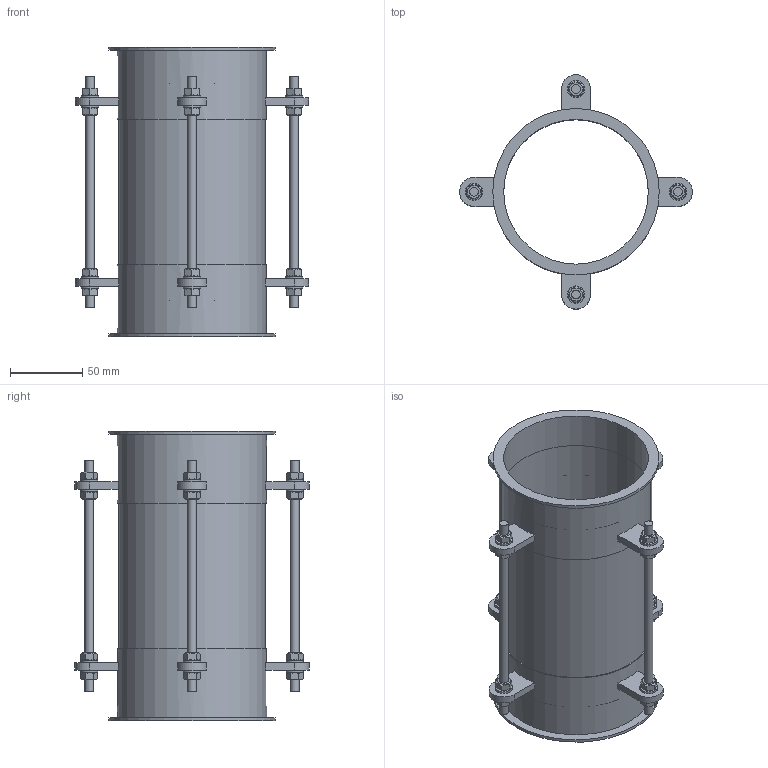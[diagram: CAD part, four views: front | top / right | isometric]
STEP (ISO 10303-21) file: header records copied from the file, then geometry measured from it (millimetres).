
FILE_DESCRIPTION((''),'2;1');
FILE_NAME('U:\Wolfgang\Marcel-3D\fertig\Kapitel 4\1011042.stp','2011-04-21T08:28:56',('TK1'),(''),'Autodesk Inventor 2010','Autodesk Inventor 2010','');
FILE_SCHEMA(('AUTOMOTIVE_DESIGN { 1 0 10303 214 1 1 1 1 }'));
Length unit declared in the file: millimetre
Products named in the file (6): 1011042; 1011042-1; 1011042-2; 1011042-3; ISO 4032 M6; ISO 7089 6 - 140 HV
Assembly tree (39 placements, depth 2):
  1011042
    1011042-1  x2
    1011042-2
    1011042-3  x4
    ISO 4032 M6  x16
    ISO 7089 6 - 140 HV  x16
Bounding box: 161.04 x 162 x 200 mm (x, y, z)
Volume: 126129.5 mm3; surface area: 203254.7 mm2
Topology: 39 solids, 39 shells, 360 faces, 770 edges, 498 vertices
Faces by surface type: plane 218, cone 64, cylinder 62, bspline 16
Full cylindrical faces by diameter (mm): 6 x12, 6.4 x16, 12 x16, 100 x3, 101.5 x3, 103 x2, 115 x2
Entity records: 2029 total; most frequent: DIRECTION 354, CARTESIAN_POINT 340, ORIENTED_EDGE 220, AXIS2_PLACEMENT_3D 152, EDGE_CURVE 110, EDGE_LOOP 100, VERTEX_POINT 84, FACE_OUTER_BOUND 60
